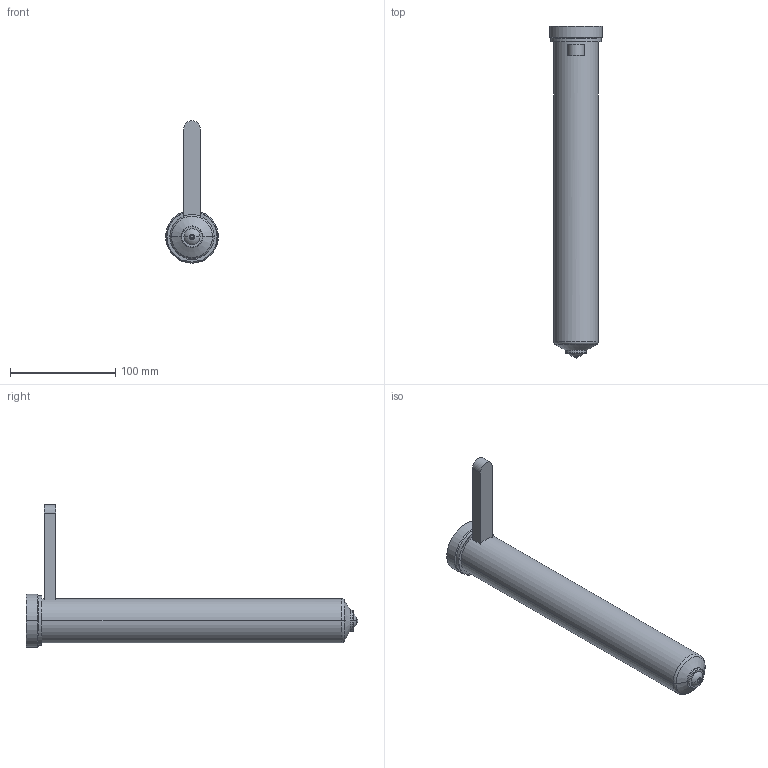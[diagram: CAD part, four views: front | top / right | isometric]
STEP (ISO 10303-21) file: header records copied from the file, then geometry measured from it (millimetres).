
FILE_DESCRIPTION((''),'2;1');
FILE_NAME('EO16_PG-BL_STD_300_COT','2024-02-19T11:18:12',('sundharh'),(''),'CREO PARAMETRIC BY PTC INC, 2023154','CREO PARAMETRIC BY PTC INC, 2023154','');
FILE_SCHEMA(('CONFIG_CONTROL_DESIGN'));
Length unit declared in the file: millimetre
Products named in the file (1): EO16_PG-BL_STD_300_COT
Bounding box: 50 x 315 x 135 mm (x, y, z)
Volume: 446308.9 mm3; surface area: 48898.6 mm2
Topology: 1 solids, 1 shells, 40 faces, 85 edges, 50 vertices
Faces by surface type: cylinder 13, plane 10, torus 9, cone 6, sphere 2
Entity records: 1201 total; most frequent: CARTESIAN_POINT 271, DIRECTION 209, ORIENTED_EDGE 170, AXIS2_PLACEMENT_3D 90, EDGE_CURVE 85, VERTEX_POINT 50, CIRCLE 50, EDGE_LOOP 43
